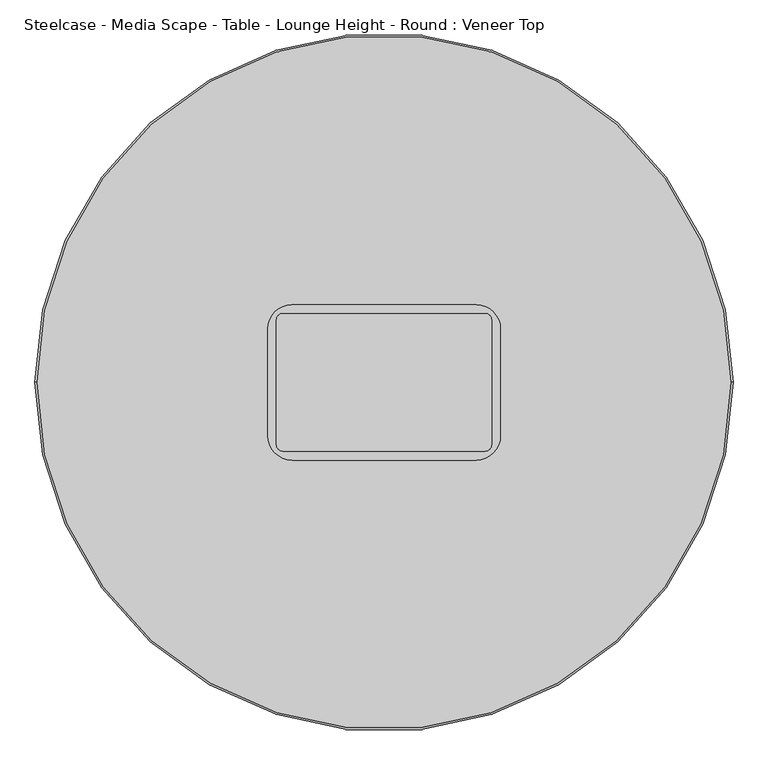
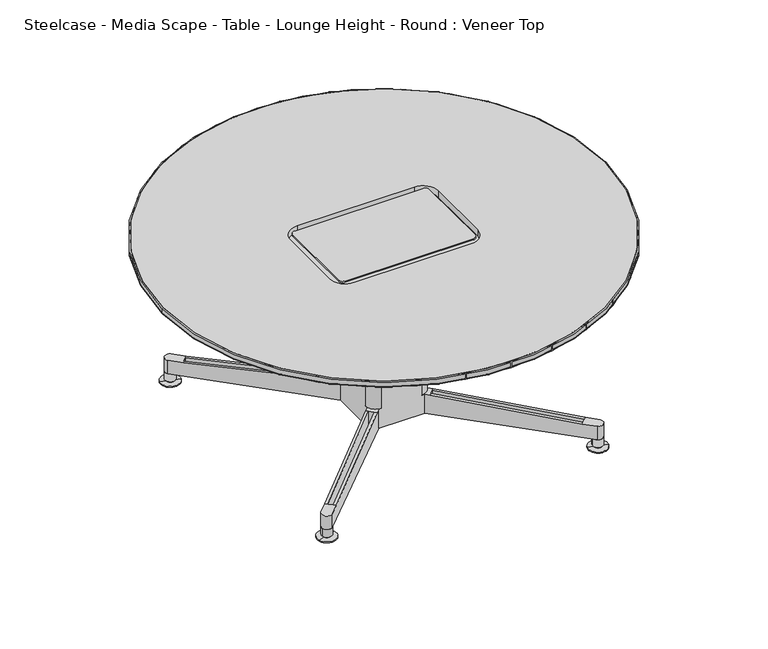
"""IFC4 building model written with IfcOpenShell, lengths in millimetres: furniture geometry, Steelcase - Media Scape - Table - Lounge Height - Round : Veneer Top."""

from ifc_helpers import new_model, si_unit, point, frame, frame_2d, origin, origin_with_axes, origin_2d, place, context, project, spatial, polyline, circle_curve, ellipse_curve, trimmed, segment, composite_curve, outline, extrude, source, transform, mapped, element, save
from ifc_brep_helpers import plane_surface, cylinder_surface, revolved_surface, spline_surface, advanced_brep


def steelcase_media_scape_table_lounge_height_round_veneer_top_e40d57ec(model_context):
    return source(origin(), model_context, "Body", "SolidModel", [
        advanced_brep(
        [(104.8668545, -82.1762242, 96.4980935), (403.4729739, -380.7823435, 78.1912503), (433.2236275, -410.5329971, 78.1912484), (433.2236275, -410.5329971, 34.5059), (93.9056692, -71.2150389, 34.5059), (93.9056692, -71.2150389, 96.4819), (397.8693429, -386.3859745, 78.1912503), (99.2632235, -87.7798552, 96.4980935), (99.2633324, -87.779964, 34.5059), (397.8693429, -386.3859745, 34.5059), (410.8500564, -433.0537332, 34.5059), (71.4620024, -93.6587057, 34.5059), (-70.954097, -93.6587057, 34.5059), (-410.342151, -433.0537332, 34.5059), (-432.7192089, -410.5295104, 34.5059), (-93.4047373, -71.2080654, 34.5059), (-93.4047373, 71.2080654, 34.5059), (-432.7192089, 410.5295104, 34.5059), (-410.342151, 433.0537332, 34.5059), (-70.954097, 93.6587057, 34.5059), (71.4620024, 93.6587057, 34.5059), (410.8500564, 433.0537332, 34.5059), (433.2271142, 410.5295104, 34.5059), (93.9126427, 71.2080654, 34.5059), (88.0268187, -99.01626, 34.5059), (386.6329381, -397.6223793, 34.5059), (-386.1250327, -397.6223793, 34.5059), (-87.5189134, -99.01626, 34.5059), (-98.7554223, -87.7799593, 34.5059), (-397.3614375, -386.3859745, 34.5059), (386.6329381, 397.6223793, 34.5059), (88.0268187, 99.01626, 34.5059), (99.2633324, 87.779964, 34.5059), (397.8693429, 386.3859745, 34.5059), (-87.5189134, 99.01626, 34.5059), (-386.1250327, 397.6223793, 34.5059), (-397.3615827, 386.3861198, 34.5059), (-98.7553181, 87.7798552, 34.5059), (381.026038, -403.2297148, 78.1912484), (410.8500564, -433.0537332, 78.1912484), (386.6330833, -397.6225246, 78.1912484), (82.419701, -104.6233777, 96.4980935), (71.4585157, -93.6621924, 96.4819), (93.9126427, 71.2080654, 96.4819), (104.8739731, 82.1693958, 96.4819), (99.2633324, 87.779964, 96.4819), (88.0268549, 99.0162962, 96.4819), (82.4231877, 104.619891, 96.4819), (71.4620024, 93.6587057, 96.4819), (62.1626427, 93.6586743, 96.4819), (93.9126427, 61.9086743, 96.4819), (-70.954097, 93.6587057, 96.4819), (-81.9152776, 104.6198863, 96.4819), (-87.5189449, 99.0162915, 96.4819), (-98.7554223, 87.7799593, 96.4819), (-104.3590896, 82.1763645, 96.4819), (-93.4047373, 71.2080654, 96.4819), (-93.4047373, 61.9086743, 96.4819), (-61.6547373, 93.6586743, 96.4819), (-93.4047373, -71.2080654, 96.4819), (-104.366063, -82.1693911, 96.4819), (-98.7554223, -87.7799593, 96.4819), (-87.5189449, -99.0162915, 96.4819), (-81.9152776, -104.6198863, 96.4819), (-70.954097, -93.6587057, 96.4819), (-61.6547373, -93.6587057, 96.4819), (-93.4047373, -61.9087057, 96.4819), (88.0268549, -99.0162962, 96.4819), (93.9126427, -61.9087057, 96.4819), (62.1626427, -93.6587057, 96.4819), (433.2306009, 410.5260237, 78.1912484), (403.4801651, 380.7755878, 78.1912484), (381.029307, 403.2260104, 78.1912503), (410.8535431, 433.0502464, 78.1912484), (-61.6547373, 93.6587057, 352.68662), (62.1626427, 93.6587057, 352.68662), (-410.3456377, 433.0502464, 78.1912484), (-380.5216194, 403.2262281, 78.1912484), (-402.972042, 380.7753701, 78.1912503), (-432.7226956, 410.5260237, 78.1912484), (-93.4047373, -61.9087057, 352.68662), (-93.4047373, 61.9086743, 352.68662), (-432.7226956, -410.5260237, 78.1912484), (-402.9722597, -380.7755878, 78.1912484), (-380.5214017, -403.2260104, 78.1912503), (-410.3456377, -433.0502464, 78.1912484), (62.1626427, -93.6587057, 352.68662), (-61.6547373, -93.6587057, 352.68662), (93.9126427, 61.9086743, 352.68662), (93.9126427, -61.9087057, 352.68662), (-386.1250327, -397.6223793, 78.1912503), (-397.3615827, -386.3861198, 78.1912484), (386.6329381, 397.6223793, 78.1912503), (397.8694881, 386.3861198, 78.1912484), (-386.1250327, 397.6223793, 78.1912503), (-397.3614695, 386.3860065, 78.1912484)],
        [
            (0, 1),
            (1, 2),
            (2, 3),
            (3, 4),
            (4, 5),
            (5, 0),
            (6, 7),
            (7, 8),
            (8, 9),
            (9, 6),
            (3, 10, circle_curve(frame((420.3453732, -420.1094725, 34.5059), z_axis=(0.0, 0.0, -1.0), x_axis=(1.0, 0.0, 0.0)), 16.053502)),
            (10, 11),
            (11, 12),
            (12, 13),
            (13, 14, circle_curve(frame((-419.8374678, -420.1094725, 34.5059), z_axis=(0.0, 0.0, -1.0), x_axis=(-1.0, 0.0, 0.0)), 16.053502)),
            (14, 15),
            (15, 16),
            (16, 17),
            (17, 18, circle_curve(frame((-419.8374678, 420.1094725, 34.5059), z_axis=(0.0, 0.0, -1.0), x_axis=(-1.0, 0.0, 0.0)), 16.053502)),
            (18, 19),
            (19, 20),
            (20, 21),
            (21, 22, circle_curve(frame((420.3453732, 420.1094725, 34.5059), z_axis=(0.0, 0.0, -1.0), x_axis=(1.0, 0.0, 0.0)), 16.053502)),
            (22, 23),
            (23, 4),
            (8, 24),
            (24, 25),
            (25, 9),
            (26, 27),
            (27, 28),
            (28, 29),
            (29, 26),
            (30, 31),
            (31, 32),
            (32, 33),
            (33, 30),
            (34, 35),
            (35, 36),
            (36, 37),
            (37, 34),
            (0, 7),
            (6, 1),
            (38, 39),
            (39, 2, circle_curve(frame((420.3453732, -420.1094725, 78.1912484), z_axis=(0.0, 0.0, 1.0), x_axis=(1.0, 0.0, 0.0)), 16.053502)),
            (6, 40),
            (40, 38),
            (38, 41),
            (41, 42),
            (42, 11),
            (10, 39),
            (25, 40),
            (43, 44),
            (44, 45),
            (45, 46),
            (46, 47),
            (47, 48),
            (48, 49),
            (49, 50, circle_curve(frame((62.1626427, 61.9086743, 96.4819), z_axis=(0.0, 0.0, -1.0), x_axis=(1.0, 0.0, 0.0)), 31.75)),
            (50, 43),
            (51, 52),
            (52, 53),
            (53, 54),
            (54, 55),
            (55, 56),
            (56, 57),
            (57, 58, circle_curve(frame((-61.6547373, 61.9086743, 96.4819), z_axis=(0.0, 0.0, -1.0), x_axis=(1.0, 0.0, 0.0)), 31.75)),
            (58, 51),
            (59, 60),
            (60, 61),
            (61, 62),
            (62, 63),
            (63, 64),
            (64, 65),
            (65, 66, circle_curve(frame((-61.6547373, -61.9087057, 96.4819), z_axis=(0.0, 0.0, -1.0), x_axis=(1.0, 0.0, 0.0)), 31.75)),
            (66, 59),
            (41, 67),
            (67, 7),
            (5, 68),
            (68, 69, circle_curve(frame((62.1626427, -61.9087057, 96.4819), z_axis=(0.0, 0.0, -1.0), x_axis=(1.0, 0.0, 0.0)), 31.75)),
            (69, 42),
            (43, 23),
            (22, 70),
            (70, 71),
            (71, 44),
            (31, 46),
            (45, 32),
            (47, 72),
            (72, 73),
            (73, 21),
            (20, 48),
            (19, 51),
            (58, 74),
            (74, 75),
            (75, 49),
            (18, 76),
            (76, 77),
            (77, 52),
            (53, 34),
            (37, 54),
            (55, 78),
            (78, 79),
            (79, 17),
            (16, 56),
            (15, 59),
            (66, 80),
            (80, 81),
            (81, 57),
            (14, 82),
            (82, 83),
            (83, 60),
            (27, 62),
            (61, 28),
            (63, 84),
            (84, 85),
            (85, 13),
            (12, 64),
            (69, 86),
            (86, 87),
            (87, 65),
            (67, 24),
            (50, 88),
            (88, 89),
            (89, 68),
            (67, 40),
            (90, 62),
            (26, 90),
            (90, 84),
            (82, 85, circle_curve(frame((-419.8374678, -420.1094725, 78.1912484), z_axis=(0.0, 0.0, 1.0), x_axis=(-1.0, 0.0, 0.0)), 16.053502)),
            (90, 91),
            (91, 83),
            (29, 91),
            (61, 91),
            (92, 46),
            (30, 92),
            (92, 72),
            (70, 73, circle_curve(frame((420.3453732, 420.1094725, 78.1912484), z_axis=(0.0, 0.0, 1.0), x_axis=(1.0, 0.0, 0.0)), 16.053502)),
            (92, 93),
            (93, 71),
            (33, 93),
            (45, 93),
            (53, 94),
            (94, 35),
            (77, 94),
            (76, 79, circle_curve(frame((-419.8374678, 420.1094725, 78.1912484), z_axis=(0.0, 0.0, 1.0), x_axis=(-1.0, 0.0, 0.0)), 16.053502)),
            (78, 95),
            (95, 94),
            (95, 36),
            (95, 54),
            (74, 81, circle_curve(frame((-61.6547373, 61.9086743, 352.68662), z_axis=(0.0, 0.0, 1.0), x_axis=(1.0, 0.0, 0.0)), 31.75)),
            (80, 87, circle_curve(frame((-61.6547373, -61.9087057, 352.68662), z_axis=(0.0, 0.0, 1.0), x_axis=(1.0, 0.0, 0.0)), 31.75)),
            (86, 89, circle_curve(frame((62.1626427, -61.9087057, 352.68662), z_axis=(0.0, 0.0, 1.0), x_axis=(1.0, 0.0, 0.0)), 31.75)),
            (88, 75, circle_curve(frame((62.1626427, 61.9086743, 352.68662), z_axis=(0.0, 0.0, 1.0), x_axis=(1.0, 0.0, 0.0)), 31.75)),
        ],
        [
            plane_surface(frame((630.811656, -608.1210257, 34.5059), z_axis=(0.7071067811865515, 0.7071067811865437, 0.0), x_axis=(-0.7071067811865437, 0.7071067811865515, 0.0))),
            plane_surface(frame((625.208025, -613.7246567, 34.5059), z_axis=(-0.7071067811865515, -0.7071067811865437, 0.0), x_axis=(0.7071067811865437, -0.7071067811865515, 0.0))),
            plane_surface(frame((403.4729739, -380.7823435, 34.5059), z_axis=(0.0, 0.0, -1.0000000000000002), x_axis=(-0.7071067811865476, -0.7071067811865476, 0.0))),
            plane_surface(frame((104.8668545, -82.1762242, 96.4980935), z_axis=(0.030625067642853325, -0.030625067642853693, 0.9990616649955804), x_axis=(-0.7071067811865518, -0.7071067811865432, 0.0))),
            plane_surface(frame((381.026038, -403.2297148, 78.1912484), z_axis=(0.0, 0.0, 1.0), x_axis=(0.7071067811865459, -0.7071067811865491, 0.0))),
            plane_surface(frame((381.026038, -403.2297148, 78.1912484), z_axis=(-0.7071067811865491, -0.7071067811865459, 0.0), x_axis=(0.0, 0.0, -1.0))),
            cylinder_surface(frame((420.3453732, -420.1094725, 34.5059), z_axis=(0.0, 0.0, 1.0), x_axis=(1.0, 0.0, 0.0)), 16.053502),
            plane_surface(frame((403.4766783, -380.7790745, 78.1912484), z_axis=(-0.7071067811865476, 0.7071067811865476, 0.0), x_axis=(0.0, 0.0, -1.0))),
            plane_surface(frame((431.5702728, 408.8656956, 96.4819), z_axis=(0.0, 0.0, 1.0), x_axis=(0.7071067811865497, 0.7071067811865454, 0.0))),
            plane_surface(frame((93.9126427, 71.2080654, 96.4819), z_axis=(0.7071067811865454, -0.7071067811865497, 0.0), x_axis=(0.0, 0.0, -1.0))),
            plane_surface(frame((104.8739731, 82.1693958, 96.4819), z_axis=(0.7071022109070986, 0.7071113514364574, 0.0), x_axis=(0.0, 0.0, -1.0))),
            plane_surface(frame((82.4231877, 104.619891, 96.4819), z_axis=(-0.7071067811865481, 0.707106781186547, 0.0), x_axis=(0.0, 0.0, -1.0))),
            plane_surface(frame((71.4620024, 93.6587057, 96.4819), z_axis=(0.0, 1.0, 0.0), x_axis=(0.0, 0.0, -1.0))),
            plane_surface(frame((-70.954097, 93.6587057, 96.4819), z_axis=(0.7071067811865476, 0.7071067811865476, 0.0), x_axis=(0.0, 0.0, -1.0))),
            plane_surface(frame((-81.9152776, 104.6198863, 96.4819), z_axis=(-0.7071022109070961, 0.7071113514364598, 0.0), x_axis=(0.0, 0.0, -1.0))),
            plane_surface(frame((-104.366063, 82.1693911, 96.4819), z_axis=(-0.7071067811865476, -0.7071067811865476, 0.0), x_axis=(0.0, 0.0, -1.0))),
            plane_surface(frame((-93.4047373, 71.2080654, 96.4819), z_axis=(-1.0, 0.0, 0.0), x_axis=(0.0, 0.0, -1.0))),
            plane_surface(frame((-93.4047373, -71.2080654, 96.4819), z_axis=(-0.7071067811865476, 0.7071067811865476, 0.0), x_axis=(0.0, 0.0, -1.0))),
            plane_surface(frame((-104.366063, -82.1693911, 96.4819), z_axis=(-0.7071022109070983, -0.7071113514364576, 0.0), x_axis=(0.0, 0.0, -1.0))),
            plane_surface(frame((-81.9152776, -104.6198863, 96.4819), z_axis=(0.7071067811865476, -0.7071067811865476, 0.0), x_axis=(0.0, 0.0, -1.0))),
            plane_surface(frame((-70.954097, -93.6587057, 96.4819), z_axis=(0.0, -1.0, 0.0), x_axis=(0.0, 0.0, -1.0))),
            plane_surface(frame((82.4231877, -104.619891, 96.4819), z_axis=(0.7071022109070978, -0.7071113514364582, 0.0), x_axis=(0.0, 0.0, -1.0))),
            plane_surface(frame((93.9126427, -71.2080654, 96.4819), z_axis=(1.0, 0.0, 0.0), x_axis=(0.0, 0.0, -1.0))),
            plane_surface(frame((386.6329381, -397.6223793, 75.7808986), z_axis=(0.7071067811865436, 0.7071067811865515, 0.0), x_axis=(0.0, 0.0, -1.0))),
            plane_surface(frame((381.029307, -403.2260104, 78.1912503), z_axis=(0.030625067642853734, -0.030625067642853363, 0.9990616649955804), x_axis=(0.7071067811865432, 0.7071067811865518, 0.0))),
            plane_surface(frame((-613.4637148, -624.9610615, 34.5059), z_axis=(-0.7071067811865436, 0.7071067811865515, 0.0), x_axis=(-0.7071067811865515, -0.7071067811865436, 0.0))),
            plane_surface(frame((-81.9152823, -104.619891, 96.4980935), z_axis=(-0.030625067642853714, -0.030625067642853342, 0.9990616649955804), x_axis=(-0.7071067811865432, 0.7071067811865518, 0.0))),
            plane_surface(frame((-402.968773, -380.7790745, 78.1912484), z_axis=(0.0, 0.0, 1.0000000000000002), x_axis=(-0.7071067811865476, 0.7071067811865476, 0.0))),
            plane_surface(frame((-380.5181327, -403.2297148, 78.1912484), z_axis=(0.7071067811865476, 0.7071067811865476, 0.0), x_axis=(0.0, 0.0, -1.0))),
            cylinder_surface(frame((-419.8374678, -420.1094725, 34.5059), z_axis=(0.0, 0.0, 1.0), x_axis=(-1.0, 0.0, 0.0)), 16.053502),
            plane_surface(frame((-397.3614375, -386.3859745, 75.7808986), z_axis=(0.7071067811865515, -0.7071067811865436, 0.0), x_axis=(0.0, 0.0, -1.0))),
            plane_surface(frame((-402.9650685, -380.7823435, 78.1912503), z_axis=(-0.030625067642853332, -0.030625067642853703, 0.9990616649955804), x_axis=(0.7071067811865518, -0.7071067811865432, 0.0))),
            plane_surface(frame((613.9716202, 624.9610615, 34.5059), z_axis=(0.7071067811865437, -0.7071067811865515, 0.0), x_axis=(0.7071067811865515, 0.7071067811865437, 0.0))),
            plane_surface(frame((82.4231877, 104.619891, 96.4980935), z_axis=(0.030625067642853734, 0.030625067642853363, 0.9990616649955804), x_axis=(0.7071067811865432, -0.7071067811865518, 0.0))),
            plane_surface(frame((403.4766783, 380.7790745, 78.1912484), z_axis=(0.0, 0.0, 1.0000000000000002), x_axis=(0.7071067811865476, -0.7071067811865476, 0.0))),
            plane_surface(frame((381.026038, 403.2297148, 78.1912484), z_axis=(-0.7071067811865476, -0.7071067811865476, 0.0), x_axis=(0.0, 0.0, -1.0))),
            cylinder_surface(frame((420.3453732, 420.1094725, 34.5059), z_axis=(0.0, 0.0, 1.0), x_axis=(1.0, 0.0, 0.0)), 16.053502),
            plane_surface(frame((397.8693429, 386.3859745, 75.7808986), z_axis=(-0.7071067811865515, 0.7071067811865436, 0.0), x_axis=(0.0, 0.0, -1.0))),
            plane_surface(frame((403.4729739, 380.7823435, 78.1912503), z_axis=(0.030625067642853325, 0.030625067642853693, 0.9990616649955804), x_axis=(-0.7071067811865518, 0.7071067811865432, 0.0))),
            plane_surface(frame((-386.1250327, 397.6223793, 75.7808986), z_axis=(-0.7071067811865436, -0.7071067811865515, 0.0), x_axis=(0.0, 0.0, -1.0))),
            plane_surface(frame((-380.5214017, 403.2260104, 78.1912503), z_axis=(-0.030625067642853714, 0.030625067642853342, 0.9990616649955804), x_axis=(-0.7071067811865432, -0.7071067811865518, 0.0))),
            plane_surface(frame((-380.5181327, 403.2297148, 78.1912484), z_axis=(0.0, 0.0, 1.0), x_axis=(-0.7071067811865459, 0.7071067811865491, 0.0))),
            cylinder_surface(frame((-419.8374678, 420.1094725, 34.5059), z_axis=(0.0, 0.0, 1.0), x_axis=(-1.0, 0.0, 0.0)), 16.053502),
            plane_surface(frame((-402.968773, 380.7790745, 78.1912484), z_axis=(0.7071067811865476, -0.7071067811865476, 0.0), x_axis=(0.0, 0.0, -1.0))),
            plane_surface(frame((-624.7001196, 613.7246567, 34.5059), z_axis=(0.7071067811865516, 0.7071067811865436, 0.0), x_axis=(-0.7071067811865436, 0.7071067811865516, 0.0))),
            plane_surface(frame((-104.3589492, 82.1762242, 96.4980935), z_axis=(-0.030625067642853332, 0.030625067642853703, 0.9990616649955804), x_axis=(0.7071067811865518, 0.7071067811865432, 0.0))),
            plane_surface(frame((-29.9047373, 61.9086743, 352.68662), z_axis=(0.0, 0.0, 1.0), x_axis=(0.0, 1.0, 0.0))),
            cylinder_surface(frame((-61.6547373, 61.9086743, 96.4819), z_axis=(0.0, 0.0, 1.0), x_axis=(1.0, 0.0, 0.0)), 31.75),
            cylinder_surface(frame((-61.6547373, -61.9087057, 96.4819), z_axis=(0.0, 0.0, 1.0), x_axis=(1.0, 0.0, 0.0)), 31.75),
            cylinder_surface(frame((62.1626427, -61.9087057, 96.4819), z_axis=(0.0, 0.0, 1.0), x_axis=(1.0, 0.0, 0.0)), 31.75),
            cylinder_surface(frame((62.1626427, 61.9086743, 96.4819), z_axis=(0.0, 0.0, 1.0), x_axis=(1.0, 0.0, 0.0)), 31.75),
        ],
        [
            (0, [[1, 2, 3, 4, 5, 6]]),
            (1, [[7, 8, 9, 10]]),
            (2, [[11, 12, 13, 14, 15, 16, 17, 18, 19, 20, 21, 22, 23, 24, 25, -4], [-9, 26, 27, 28], [29, 30, 31, 32], [33, 34, 35, 36], [37, 38, 39, 40]]),
            (3, [[-1, 41, -7, 42]]),
            (4, [[43, 44, -2, -42, 45, 46]]),
            (5, [[-43, 47, 48, 49, -12, 50]]),
            (6, [[-44, -50, -11, -3]]),
            (7, [[-10, -28, 51, -45]]),
            (8, [[52, 53, 54, 55, 56, 57, 58, 59]]),
            (8, [[60, 61, 62, 63, 64, 65, 66, 67]]),
            (8, [[68, 69, 70, 71, 72, 73, 74, 75]]),
            (8, [[-48, 76, 77, -41, -6, 78, 79, 80]]),
            (9, [[-52, 81, -24, 82, 83, 84]]),
            (10, [[85, -54, 86, -34]]),
            (11, [[-56, 87, 88, 89, -22, 90]]),
            (12, [[-21, 91, -67, 92, 93, 94, -57, -90]]),
            (13, [[-60, -91, -20, 95, 96, 97]]),
            (14, [[98, -40, 99, -62]]),
            (15, [[-64, 100, 101, 102, -18, 103]]),
            (16, [[-17, 104, -75, 105, 106, 107, -65, -103]]),
            (17, [[-68, -104, -16, 108, 109, 110]]),
            (18, [[111, -70, 112, -30]]),
            (19, [[-72, 113, 114, 115, -14, 116]]),
            (20, [[-13, -49, -80, 117, 118, 119, -73, -116]]),
            (21, [[-8, -77, 120, -26]]),
            (22, [[-25, -81, -59, 121, 122, 123, -78, -5]]),
            (23, [[-27, -120, 124, -51]]),
            (24, [[-47, -46, -124, -76]]),
            (25, [[125, -111, -29, 126]]),
            (26, [[-113, -71, -125, 127]]),
            (27, [[-109, 128, -114, -127, 129, 130]]),
            (28, [[-126, -32, 131, -129]]),
            (29, [[-128, -108, -15, -115]]),
            (30, [[-31, -112, 132, -131]]),
            (31, [[-110, -130, -132, -69]]),
            (32, [[133, -85, -33, 134]]),
            (33, [[-87, -55, -133, 135]]),
            (34, [[-83, 136, -88, -135, 137, 138]]),
            (35, [[-134, -36, 139, -137]]),
            (36, [[-136, -82, -23, -89]]),
            (37, [[-35, -86, 140, -139]]),
            (38, [[-84, -138, -140, -53]]),
            (39, [[-37, -98, 141, 142]]),
            (40, [[-97, 143, -141, -61]]),
            (41, [[-96, 144, -101, 145, 146, -143]]),
            (42, [[-144, -95, -19, -102]]),
            (43, [[-142, -146, 147, -38]]),
            (44, [[148, -99, -39, -147]]),
            (45, [[-100, -63, -148, -145]]),
            (46, [[149, -106, 150, -118, 151, -122, 152, -93]]),
            (47, [[-149, -92, -66, -107]]),
            (48, [[-150, -105, -74, -119]]),
            (49, [[-151, -117, -79, -123]]),
            (50, [[-152, -121, -58, -94]]),
        ],
    ),
        advanced_brep(
        [(-419.8378225, 420.251735, 0.0), (-448.2994215, 428.7370221, 0.0), (-391.3762234, 411.7664479, 0.0), (-404.5499346, 415.6939406, 34.5059), (-435.1257103, 424.8095294, 34.5059), (-419.8378225, 420.251735, 34.5059), (-404.5499346, 415.6939406, 9.1059), (-435.1257103, 424.8095294, 9.1059), (-409.2518455, 417.0957263, 9.1059), (-430.4237995, 423.4077437, 9.1059), (-409.2518455, 417.0957263, 3.2766), (-430.4237995, 423.4077437, 3.2766), (-391.3762234, 411.7664479, 3.2766), (-448.2994215, 428.7370221, 3.2766)],
        [
            (0, 1),
            (1, 2, circle_curve(frame((-419.8378225, 420.251735, 0.0), z_axis=(0.0, 0.0, -1.0), x_axis=(-0.9583178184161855, 0.28570432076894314, 0.0)), 29.6995407)),
            (2, 0),
            (2, 1, circle_curve(frame((-419.8378225, 420.251735, 0.0), z_axis=(0.0, 0.0, -1.0), x_axis=(-0.9583178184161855, 0.28570432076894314, 0.0)), 29.6995407)),
            (3, 4, circle_curve(frame((-419.8378225, 420.251735, 34.5059), z_axis=(0.0, 0.0, 1.0), x_axis=(-0.9583178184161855, 0.28570432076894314, 0.0)), 15.9528369)),
            (4, 5),
            (5, 3),
            (4, 3, circle_curve(frame((-419.8378225, 420.251735, 34.5059), z_axis=(0.0, 0.0, 1.0), x_axis=(-0.9583178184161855, 0.28570432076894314, 0.0)), 15.9528369)),
            (6, 7, circle_curve(frame((-419.8378225, 420.251735, 9.1059), z_axis=(0.0, 0.0, 1.0), x_axis=(-0.9583178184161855, 0.28570432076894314, 0.0)), 15.9528369)),
            (7, 4),
            (3, 6),
            (7, 6, circle_curve(frame((-419.8378225, 420.251735, 9.1059), z_axis=(0.0, 0.0, 1.0), x_axis=(-0.9583178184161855, 0.28570432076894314, 0.0)), 15.9528369)),
            (8, 9, circle_curve(frame((-419.8378225, 420.251735, 9.1059), z_axis=(0.0, 0.0, 1.0), x_axis=(-0.9583178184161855, 0.28570432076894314, 0.0)), 11.0464157)),
            (9, 7),
            (6, 8),
            (9, 8, circle_curve(frame((-419.8378225, 420.251735, 9.1059), z_axis=(0.0, 0.0, 1.0), x_axis=(-0.9583178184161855, 0.28570432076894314, 0.0)), 11.0464157)),
            (10, 11, circle_curve(frame((-419.8378225, 420.251735, 3.2766), z_axis=(0.0, 0.0, 1.0), x_axis=(-0.9583178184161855, 0.28570432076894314, 0.0)), 11.0464157)),
            (11, 9),
            (8, 10),
            (11, 10, circle_curve(frame((-419.8378225, 420.251735, 3.2766), z_axis=(0.0, 0.0, 1.0), x_axis=(-0.9583178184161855, 0.28570432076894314, 0.0)), 11.0464157)),
            (12, 13, circle_curve(frame((-419.8378225, 420.251735, 3.2766), z_axis=(0.0, 0.0, 1.0), x_axis=(-0.9583178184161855, 0.28570432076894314, 0.0)), 29.6995407)),
            (13, 11),
            (10, 12),
            (13, 12, circle_curve(frame((-419.8378225, 420.251735, 3.2766), z_axis=(0.0, 0.0, 1.0), x_axis=(-0.9583178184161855, 0.28570432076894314, 0.0)), 29.6995407)),
            (1, 13),
            (12, 2),
        ],
        [
            plane_surface(frame((-419.8378225, 420.251735, 0.0), z_axis=(0.0, 0.0, -1.0000000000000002), x_axis=(-0.9583178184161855, 0.28570432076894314, 0.0))),
            plane_surface(frame((-419.8378225, 420.251735, 34.5059), z_axis=(0.0, 0.0, 1.0000000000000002), x_axis=(-0.9583178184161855, 0.28570432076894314, 0.0))),
            cylinder_surface(frame((-419.8378225, 420.251735, 9.1059), z_axis=(0.0, 0.0, -1.0), x_axis=(-0.9583178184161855, 0.28570432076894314, 0.0)), 15.9528369),
            plane_surface(frame((-419.8378225, 420.251735, 9.1059), z_axis=(0.0, 0.0, -1.0000000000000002), x_axis=(-0.9583178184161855, 0.28570432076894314, 0.0))),
            cylinder_surface(frame((-419.8378225, 420.251735, 9.1059), z_axis=(0.0, 0.0, -1.0), x_axis=(-0.9583178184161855, 0.28570432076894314, 0.0)), 11.0464157),
            plane_surface(frame((-419.8378225, 420.251735, 3.2766), z_axis=(0.0, 0.0, 1.0000000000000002), x_axis=(-0.9583178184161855, 0.28570432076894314, 0.0))),
            cylinder_surface(frame((-419.8378225, 420.251735, 9.1059), z_axis=(0.0, 0.0, -1.0), x_axis=(-0.9583178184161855, 0.28570432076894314, 0.0)), 29.6995407),
        ],
        [
            (0, [[1, 2, 3]]),
            (0, [[-3, 4, -1]]),
            (1, [[5, 6, 7]]),
            (1, [[8, -7, -6]]),
            (2, [[9, 10, -5, 11]]),
            (2, [[12, -11, -8, -10]]),
            (3, [[13, 14, -9, 15]]),
            (3, [[16, -15, -12, -14]]),
            (4, [[17, 18, -13, 19]]),
            (4, [[20, -19, -16, -18]]),
            (5, [[21, 22, -17, 23]]),
            (5, [[24, -23, -20, -22]]),
            (6, [[-2, 25, -21, 26]]),
            (6, [[-4, -26, -24, -25]]),
        ],
    ),
        advanced_brep(
        [(391.8841288, 411.7664479, 3.2766), (448.8073269, 428.7370221, 3.2766), (448.8073269, 428.7370221, 0.0), (391.8841288, 411.7664479, 0.0), (409.7597508, 417.0957263, 3.2766), (430.9317048, 423.4077437, 3.2766), (409.7597508, 417.0957263, 9.1059), (430.9317048, 423.4077437, 9.1059), (405.05784, 415.6939406, 9.1059), (435.6336157, 424.8095294, 9.1059), (405.05784, 415.6939406, 34.5059), (435.6336157, 424.8095294, 34.5059), (420.3457278, 420.251735, 34.5059), (420.3457278, 420.251735, 0.0)],
        [
            (0, 1, circle_curve(frame((420.3457278, 420.251735, 3.2766), z_axis=(0.0, 0.0, -1.0), x_axis=(0.9583178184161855, 0.28570432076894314, 0.0)), 29.6995407)),
            (1, 2),
            (2, 3, circle_curve(frame((420.3457278, 420.251735, 0.0), z_axis=(0.0, 0.0, 1.0), x_axis=(0.9583178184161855, 0.28570432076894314, 0.0)), 29.6995407)),
            (3, 0),
            (1, 0, circle_curve(frame((420.3457278, 420.251735, 3.2766), z_axis=(0.0, 0.0, -1.0), x_axis=(0.9583178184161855, 0.28570432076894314, 0.0)), 29.6995407)),
            (3, 2, circle_curve(frame((420.3457278, 420.251735, 0.0), z_axis=(0.0, 0.0, 1.0), x_axis=(0.9583178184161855, 0.28570432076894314, 0.0)), 29.6995407)),
            (4, 5, circle_curve(frame((420.3457278, 420.251735, 3.2766), z_axis=(0.0, 0.0, -1.0), x_axis=(0.9583178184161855, 0.28570432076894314, 0.0)), 11.0464157)),
            (5, 1),
            (0, 4),
            (5, 4, circle_curve(frame((420.3457278, 420.251735, 3.2766), z_axis=(0.0, 0.0, -1.0), x_axis=(0.9583178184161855, 0.28570432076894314, 0.0)), 11.0464157)),
            (6, 7, circle_curve(frame((420.3457278, 420.251735, 9.1059), z_axis=(0.0, 0.0, -1.0), x_axis=(0.9583178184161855, 0.28570432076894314, 0.0)), 11.0464157)),
            (7, 5),
            (4, 6),
            (7, 6, circle_curve(frame((420.3457278, 420.251735, 9.1059), z_axis=(0.0, 0.0, -1.0), x_axis=(0.9583178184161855, 0.28570432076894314, 0.0)), 11.0464157)),
            (8, 9, circle_curve(frame((420.3457278, 420.251735, 9.1059), z_axis=(0.0, 0.0, -1.0), x_axis=(0.9583178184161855, 0.28570432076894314, 0.0)), 15.9528369)),
            (9, 7),
            (6, 8),
            (9, 8, circle_curve(frame((420.3457278, 420.251735, 9.1059), z_axis=(0.0, 0.0, -1.0), x_axis=(0.9583178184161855, 0.28570432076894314, 0.0)), 15.9528369)),
            (10, 11, circle_curve(frame((420.3457278, 420.251735, 34.5059), z_axis=(0.0, 0.0, -1.0), x_axis=(0.9583178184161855, 0.28570432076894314, 0.0)), 15.9528369)),
            (11, 9),
            (8, 10),
            (11, 10, circle_curve(frame((420.3457278, 420.251735, 34.5059), z_axis=(0.0, 0.0, -1.0), x_axis=(0.9583178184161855, 0.28570432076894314, 0.0)), 15.9528369)),
            (12, 11),
            (10, 12),
            (2, 13),
            (13, 3),
        ],
        [
            cylinder_surface(frame((420.3457278, 420.251735, 9.1059), z_axis=(0.0, 0.0, 1.0), x_axis=(0.9583178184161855, 0.28570432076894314, 0.0)), 29.6995407),
            plane_surface(frame((420.3457278, 420.251735, 3.2766), z_axis=(0.0, 0.0, 1.0000000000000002), x_axis=(0.9583178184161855, 0.28570432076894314, 0.0))),
            cylinder_surface(frame((420.3457278, 420.251735, 9.1059), z_axis=(0.0, 0.0, 1.0), x_axis=(0.9583178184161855, 0.28570432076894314, 0.0)), 11.0464157),
            plane_surface(frame((420.3457278, 420.251735, 9.1059), z_axis=(0.0, 0.0, -1.0000000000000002), x_axis=(0.9583178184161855, 0.28570432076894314, 0.0))),
            cylinder_surface(frame((420.3457278, 420.251735, 9.1059), z_axis=(0.0, 0.0, 1.0), x_axis=(0.9583178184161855, 0.28570432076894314, 0.0)), 15.9528369),
            plane_surface(frame((420.3457278, 420.251735, 34.5059), z_axis=(0.0, 0.0, 1.0000000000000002), x_axis=(0.9583178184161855, 0.28570432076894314, 0.0))),
            plane_surface(frame((420.3457278, 420.251735, 0.0), z_axis=(0.0, 0.0, -1.0000000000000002), x_axis=(0.9583178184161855, 0.28570432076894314, 0.0))),
        ],
        [
            (0, [[1, 2, 3, 4]]),
            (0, [[5, -4, 6, -2]]),
            (1, [[7, 8, -1, 9]]),
            (1, [[10, -9, -5, -8]]),
            (2, [[11, 12, -7, 13]]),
            (2, [[14, -13, -10, -12]]),
            (3, [[15, 16, -11, 17]]),
            (3, [[18, -17, -14, -16]]),
            (4, [[19, 20, -15, 21]]),
            (4, [[22, -21, -18, -20]]),
            (5, [[23, -19, 24]]),
            (5, [[-24, -22, -23]]),
            (6, [[-3, 25, 26]]),
            (6, [[-6, -26, -25]]),
        ],
    ),
        advanced_brep(
        [(687.0537612, 0.0, 569.9023504), (-687.0537612, 0.0, 569.9023504), (-683.878737, 0.0, 566.7273262), (683.878737, 0.0, 566.7273262), (687.0537612, 0.0, 583.6183158), (-687.0537612, 0.0, 583.6183158), (683.878737, 0.0, 586.79334), (-683.878737, 0.0, 586.79334)],
        [
            (0, 1, circle_curve(frame((0.0, 0.0, 569.9023504), z_axis=(0.0, 0.0, -1.0), x_axis=(-1.0, 0.0, 0.0)), 687.0537612)),
            (1, 2, circle_curve(frame((-683.878737, 0.0, 569.9023504), z_axis=(0.0, -1.0, 0.0), x_axis=(1.0, 0.0, 0.0)), 3.1750242)),
            (2, 3, circle_curve(frame((0.0, 0.0, 566.7273262), z_axis=(0.0, 0.0, 1.0), x_axis=(-1.0, 0.0, 0.0)), 683.878737)),
            (3, 0, circle_curve(frame((683.878737, 0.0, 569.9023504), z_axis=(0.0, -1.0, 0.0), x_axis=(-1.0, 0.0, 0.0)), 3.1750242)),
            (4, 5, circle_curve(frame((0.0, 0.0, 583.6183158), z_axis=(0.0, 0.0, -1.0), x_axis=(-1.0, 0.0, 0.0)), 687.0537612)),
            (5, 1),
            (0, 4),
            (6, 7, circle_curve(frame((0.0, 0.0, 586.79334), z_axis=(0.0, 0.0, -1.0), x_axis=(-1.0, 0.0, 0.0)), 683.878737)),
            (7, 5, circle_curve(frame((-683.878737, 0.0, 583.6183158), z_axis=(0.0, -1.0, 0.0), x_axis=(1.0, 0.0, 0.0)), 3.1750242)),
            (4, 6, circle_curve(frame((683.878737, 0.0, 583.6183158), z_axis=(0.0, -1.0, 0.0), x_axis=(-1.0, 0.0, 0.0)), 3.1750242)),
            (2, 7),
            (6, 3),
            (1, 0, circle_curve(frame((0.0, 0.0, 569.9023504), z_axis=(0.0, 0.0, -1.0), x_axis=(1.0, 0.0, 0.0)), 687.0537612)),
            (3, 2, circle_curve(frame((0.0, 0.0, 566.7273262), z_axis=(0.0, 0.0, 1.0), x_axis=(1.0, 0.0, 0.0)), 683.878737)),
            (5, 4, circle_curve(frame((0.0, 0.0, 583.6183158), z_axis=(0.0, 0.0, -1.0), x_axis=(1.0, 0.0, 0.0)), 687.0537612)),
            (7, 6, circle_curve(frame((0.0, 0.0, 586.79334), z_axis=(0.0, 0.0, -1.0), x_axis=(1.0, 0.0, 0.0)), 683.878737)),
        ],
        [
            revolved_surface(trimmed(ellipse_curve(frame((-683.878737, 0.0, 569.9023504), z_axis=(0.0, 1.0, 0.0), x_axis=(1.0, 0.0, 0.0)), 3.1750242, 3.1750242), [point((-683.878737, 0.0, 566.7273262))], [point((-687.0537612, 0.0, 569.9023504))], True, "CARTESIAN"), (0.0, 0.0, 0.0), (0.0, 0.0, 1.0)),
            cylinder_surface(frame((0.0, 0.0, 0.0), z_axis=(0.0, 0.0, 1.0), x_axis=(-1.0, 0.0, 0.0)), 687.0537612),
            revolved_surface(trimmed(ellipse_curve(frame((-683.878737, 0.0, 583.6183158), z_axis=(0.0, 1.0, 0.0), x_axis=(1.0, 0.0, 0.0)), 3.1750242, 3.1750242), [point((-687.0537612, 0.0, 583.6183158))], [point((-683.878737, 0.0, 586.79334))], True, "CARTESIAN"), (0.0, 0.0, 0.0), (0.0, 0.0, 1.0)),
            revolved_surface(polyline([(-683.878737, 0.0, 586.79334), (-683.878737, 0.0, 566.7273262)]), (0.0, 0.0, 0.0), (0.0, 0.0, 1.0)),
            revolved_surface(trimmed(ellipse_curve(frame((683.878737, 0.0, 569.9023504), z_axis=(0.0, -1.0, 0.0), x_axis=(-1.0, 0.0, 0.0)), 3.1750242, 3.1750242), [point((683.878737, 0.0, 566.7273262))], [point((687.0537612, 0.0, 569.9023504))], True, "CARTESIAN"), (0.0, 0.0, 0.0), (0.0, 0.0, 1.0)),
            cylinder_surface(origin_with_axes(), 687.0537612),
            revolved_surface(trimmed(ellipse_curve(frame((683.878737, 0.0, 583.6183158), z_axis=(0.0, -1.0, 0.0), x_axis=(-1.0, 0.0, 0.0)), 3.1750242, 3.1750242), [point((687.0537612, 0.0, 583.6183158))], [point((683.878737, 0.0, 586.79334))], True, "CARTESIAN"), (0.0, 0.0, 0.0), (0.0, 0.0, 1.0)),
            revolved_surface(polyline([(683.878737, 0.0, 586.79334), (683.878737, 0.0, 566.7273262)]), (0.0, 0.0, 0.0), (0.0, 0.0, 1.0)),
        ],
        [
            (0, [[1, 2, 3, 4]]),
            (1, [[5, 6, -1, 7]]),
            (2, [[8, 9, -5, 10]]),
            (3, [[-3, 11, -8, 12]]),
            (4, [[13, -4, 14, -2]]),
            (5, [[15, -7, -13, -6]]),
            (6, [[16, -10, -15, -9]]),
            (7, [[-14, -12, -16, -11]]),
        ],
    ),
        extrude(outline(composite_curve([segment(trimmed(circle_curve(origin_2d(), 683.878737), [point((-683.878737, 0.0))], [point((683.878737, 0.0))], False, "CARTESIAN"), True, "CONTINUOUS"), segment(trimmed(circle_curve(origin_2d(), 683.878737), [point((683.878737, 0.0))], [point((-683.878737, 0.0))], False, "CARTESIAN"), True, "CONTINUOUS")], self_intersect=False), holes=[composite_curve([segment(polyline([(-228.727124, 105.1501252), (-228.727124, -104.8655318)]), True, "CONTINUOUS"), segment(trimmed(circle_curve(frame_2d((-180.811706, -104.8655318)), 47.915418), [point((-228.727124, -104.8655318))], [point((-180.811706, -152.7809498))], True, "CARTESIAN"), True, "CONTINUOUS"), segment(polyline([(-180.811706, -152.7809498), (181.3196208, -152.7809498)]), True, "CONTINUOUS"), segment(trimmed(circle_curve(frame_2d((181.3196208, -104.8655318)), 47.915418), [point((181.3196208, -152.7809498))], [point((229.2350388, -104.8655318))], True, "CARTESIAN"), True, "CONTINUOUS"), segment(polyline([(229.2350388, -104.8655318), (229.2350388, 105.1501252)]), True, "CONTINUOUS"), segment(trimmed(circle_curve(frame_2d((181.6042417, 105.1501252)), 47.6307971), [point((229.2350388, 105.1501252))], [point((181.6042417, 152.7809223))], True, "CARTESIAN"), True, "CONTINUOUS"), segment(polyline([(181.6042417, 152.7809223), (-181.0963269, 152.7809223)]), True, "CONTINUOUS"), segment(trimmed(circle_curve(frame_2d((-181.0963269, 105.1501252)), 47.6307971), [point((-181.0963269, 152.7809223))], [point((-228.727124, 105.1501252))], True, "CARTESIAN"), True, "CONTINUOUS")], self_intersect=False)]), frame((0.0, 0.0, 566.7273262), z_axis=(0.0, 0.0, 1.0), x_axis=(1.0, 0.0, 0.0)), (0.0, 0.0, 1.0), 20.0660138),
        extrude(outline(composite_curve([segment(trimmed(circle_curve(frame_2d((198.9200287, 122.872525)), 12.7), [point((198.9200287, 135.572525))], [point((211.6200287, 122.872525))], False, "CARTESIAN"), True, "CONTINUOUS"), segment(polyline([(211.6200287, 122.872525), (211.6200287, -122.3644925)]), True, "CONTINUOUS"), segment(trimmed(circle_curve(frame_2d((198.9200287, -122.3644925)), 12.7), [point((211.6200287, -122.3644925))], [point((198.9200287, -135.0644925))], False, "CARTESIAN"), True, "CONTINUOUS"), segment(polyline([(198.9200287, -135.0644925), (-198.9200287, -135.0644925)]), True, "CONTINUOUS"), segment(trimmed(circle_curve(frame_2d((-198.9200287, -122.3644925)), 12.7), [point((-198.9200287, -135.0644925))], [point((-211.6200287, -122.3644925))], False, "CARTESIAN"), True, "CONTINUOUS"), segment(polyline([(-211.6200287, -122.3644925), (-211.6200287, 122.872525)]), True, "CONTINUOUS"), segment(trimmed(circle_curve(frame_2d((-198.9200287, 122.872525)), 12.7), [point((-211.6200287, 122.872525))], [point((-198.9200287, 135.572525))], False, "CARTESIAN"), True, "CONTINUOUS"), segment(polyline([(-198.9200287, 135.572525), (198.9200287, 135.572525)]), True, "CONTINUOUS")], self_intersect=False)), frame((0.0, 0.0, 582.72934), z_axis=(0.0, 0.0, 1.0), x_axis=(1.0, 0.0, 0.0)), (0.0, 0.0, 1.0), 4.064),
        advanced_brep(
        [(-391.3762234, -411.7664479, 3.2766), (-448.2994215, -428.7370221, 3.2766), (-448.2994215, -428.7370221, 0.0), (-391.3762234, -411.7664479, 0.0), (-409.2518455, -417.0957263, 3.2766), (-430.4237995, -423.4077437, 3.2766), (-409.2518455, -417.0957263, 9.1059), (-430.4237995, -423.4077437, 9.1059), (-404.5499346, -415.6939406, 9.1059), (-435.1257103, -424.8095294, 9.1059), (-404.5499346, -415.6939406, 34.5059), (-435.1257103, -424.8095294, 34.5059), (-419.8378225, -420.251735, 34.5059), (-419.8378225, -420.251735, 0.0)],
        [
            (0, 1, circle_curve(frame((-419.8378225, -420.251735, 3.2766), z_axis=(0.0, 0.0, -1.0), x_axis=(-0.9583178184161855, -0.28570432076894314, 0.0)), 29.6995407)),
            (1, 2),
            (2, 3, circle_curve(frame((-419.8378225, -420.251735, 0.0), z_axis=(0.0, 0.0, 1.0), x_axis=(-0.9583178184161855, -0.28570432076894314, 0.0)), 29.6995407)),
            (3, 0),
            (1, 0, circle_curve(frame((-419.8378225, -420.251735, 3.2766), z_axis=(0.0, 0.0, -1.0), x_axis=(-0.9583178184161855, -0.28570432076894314, 0.0)), 29.6995407)),
            (3, 2, circle_curve(frame((-419.8378225, -420.251735, 0.0), z_axis=(0.0, 0.0, 1.0), x_axis=(-0.9583178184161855, -0.28570432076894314, 0.0)), 29.6995407)),
            (4, 5, circle_curve(frame((-419.8378225, -420.251735, 3.2766), z_axis=(0.0, 0.0, -1.0), x_axis=(-0.9583178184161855, -0.28570432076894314, 0.0)), 11.0464157)),
            (5, 1),
            (0, 4),
            (5, 4, circle_curve(frame((-419.8378225, -420.251735, 3.2766), z_axis=(0.0, 0.0, -1.0), x_axis=(-0.9583178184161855, -0.28570432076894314, 0.0)), 11.0464157)),
            (6, 7, circle_curve(frame((-419.8378225, -420.251735, 9.1059), z_axis=(0.0, 0.0, -1.0), x_axis=(-0.9583178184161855, -0.28570432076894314, 0.0)), 11.0464157)),
            (7, 5),
            (4, 6),
            (7, 6, circle_curve(frame((-419.8378225, -420.251735, 9.1059), z_axis=(0.0, 0.0, -1.0), x_axis=(-0.9583178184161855, -0.28570432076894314, 0.0)), 11.0464157)),
            (8, 9, circle_curve(frame((-419.8378225, -420.251735, 9.1059), z_axis=(0.0, 0.0, -1.0), x_axis=(-0.9583178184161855, -0.28570432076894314, 0.0)), 15.9528369)),
            (9, 7),
            (6, 8),
            (9, 8, circle_curve(frame((-419.8378225, -420.251735, 9.1059), z_axis=(0.0, 0.0, -1.0), x_axis=(-0.9583178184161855, -0.28570432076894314, 0.0)), 15.9528369)),
            (10, 11, circle_curve(frame((-419.8378225, -420.251735, 34.5059), z_axis=(0.0, 0.0, -1.0), x_axis=(-0.9583178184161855, -0.28570432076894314, 0.0)), 15.9528369)),
            (11, 9),
            (8, 10),
            (11, 10, circle_curve(frame((-419.8378225, -420.251735, 34.5059), z_axis=(0.0, 0.0, -1.0), x_axis=(-0.9583178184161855, -0.28570432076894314, 0.0)), 15.9528369)),
            (12, 11),
            (10, 12),
            (2, 13),
            (13, 3),
        ],
        [
            cylinder_surface(frame((-419.8378225, -420.251735, 9.1059), z_axis=(0.0, 0.0, 1.0), x_axis=(-0.9583178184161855, -0.28570432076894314, 0.0)), 29.6995407),
            plane_surface(frame((-419.8378225, -420.251735, 3.2766), z_axis=(0.0, 0.0, 1.0000000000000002), x_axis=(-0.9583178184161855, -0.28570432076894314, 0.0))),
            cylinder_surface(frame((-419.8378225, -420.251735, 9.1059), z_axis=(0.0, 0.0, 1.0), x_axis=(-0.9583178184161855, -0.28570432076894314, 0.0)), 11.0464157),
            plane_surface(frame((-419.8378225, -420.251735, 9.1059), z_axis=(0.0, 0.0, -1.0000000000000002), x_axis=(-0.9583178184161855, -0.28570432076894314, 0.0))),
            cylinder_surface(frame((-419.8378225, -420.251735, 9.1059), z_axis=(0.0, 0.0, 1.0), x_axis=(-0.9583178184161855, -0.28570432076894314, 0.0)), 15.9528369),
            plane_surface(frame((-419.8378225, -420.251735, 34.5059), z_axis=(0.0, 0.0, 1.0000000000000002), x_axis=(-0.9583178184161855, -0.28570432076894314, 0.0))),
            plane_surface(frame((-419.8378225, -420.251735, 0.0), z_axis=(0.0, 0.0, -1.0000000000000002), x_axis=(-0.9583178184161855, -0.28570432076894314, 0.0))),
        ],
        [
            (0, [[1, 2, 3, 4]]),
            (0, [[5, -4, 6, -2]]),
            (1, [[7, 8, -1, 9]]),
            (1, [[10, -9, -5, -8]]),
            (2, [[11, 12, -7, 13]]),
            (2, [[14, -13, -10, -12]]),
            (3, [[15, 16, -11, 17]]),
            (3, [[18, -17, -14, -16]]),
            (4, [[19, 20, -15, 21]]),
            (4, [[22, -21, -18, -20]]),
            (5, [[23, -19, 24]]),
            (5, [[-24, -22, -23]]),
            (6, [[-3, 25, 26]]),
            (6, [[-6, -26, -25]]),
        ],
    ),
        advanced_brep(
        [(420.3457278, -420.251735, 0.0), (448.8073269, -428.7370221, 0.0), (391.8841288, -411.7664479, 0.0), (405.05784, -415.6939406, 34.5059), (435.6336157, -424.8095294, 34.5059), (420.3457278, -420.251735, 34.5059), (405.05784, -415.6939406, 9.1059), (435.6336157, -424.8095294, 9.1059), (409.7597508, -417.0957263, 9.1059), (430.9317048, -423.4077437, 9.1059), (409.7597508, -417.0957263, 3.2766), (430.9317048, -423.4077437, 3.2766), (391.8841288, -411.7664479, 3.2766), (448.8073269, -428.7370221, 3.2766)],
        [
            (0, 1),
            (1, 2, circle_curve(frame((420.3457278, -420.251735, 0.0), z_axis=(0.0, 0.0, -1.0), x_axis=(0.9583178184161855, -0.28570432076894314, 0.0)), 29.6995407)),
            (2, 0),
            (2, 1, circle_curve(frame((420.3457278, -420.251735, 0.0), z_axis=(0.0, 0.0, -1.0), x_axis=(0.9583178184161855, -0.28570432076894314, 0.0)), 29.6995407)),
            (3, 4, circle_curve(frame((420.3457278, -420.251735, 34.5059), z_axis=(0.0, 0.0, 1.0), x_axis=(0.9583178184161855, -0.28570432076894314, 0.0)), 15.9528369)),
            (4, 5),
            (5, 3),
            (4, 3, circle_curve(frame((420.3457278, -420.251735, 34.5059), z_axis=(0.0, 0.0, 1.0), x_axis=(0.9583178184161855, -0.28570432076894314, 0.0)), 15.9528369)),
            (6, 7, circle_curve(frame((420.3457278, -420.251735, 9.1059), z_axis=(0.0, 0.0, 1.0), x_axis=(0.9583178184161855, -0.28570432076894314, 0.0)), 15.9528369)),
            (7, 4),
            (3, 6),
            (7, 6, circle_curve(frame((420.3457278, -420.251735, 9.1059), z_axis=(0.0, 0.0, 1.0), x_axis=(0.9583178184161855, -0.28570432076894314, 0.0)), 15.9528369)),
            (8, 9, circle_curve(frame((420.3457278, -420.251735, 9.1059), z_axis=(0.0, 0.0, 1.0), x_axis=(0.9583178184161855, -0.28570432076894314, 0.0)), 11.0464157)),
            (9, 7),
            (6, 8),
            (9, 8, circle_curve(frame((420.3457278, -420.251735, 9.1059), z_axis=(0.0, 0.0, 1.0), x_axis=(0.9583178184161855, -0.28570432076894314, 0.0)), 11.0464157)),
            (10, 11, circle_curve(frame((420.3457278, -420.251735, 3.2766), z_axis=(0.0, 0.0, 1.0), x_axis=(0.9583178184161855, -0.28570432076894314, 0.0)), 11.0464157)),
            (11, 9),
            (8, 10),
            (11, 10, circle_curve(frame((420.3457278, -420.251735, 3.2766), z_axis=(0.0, 0.0, 1.0), x_axis=(0.9583178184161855, -0.28570432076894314, 0.0)), 11.0464157)),
            (12, 13, circle_curve(frame((420.3457278, -420.251735, 3.2766), z_axis=(0.0, 0.0, 1.0), x_axis=(0.9583178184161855, -0.28570432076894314, 0.0)), 29.6995407)),
            (13, 11),
            (10, 12),
            (13, 12, circle_curve(frame((420.3457278, -420.251735, 3.2766), z_axis=(0.0, 0.0, 1.0), x_axis=(0.9583178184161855, -0.28570432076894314, 0.0)), 29.6995407)),
            (1, 13),
            (12, 2),
        ],
        [
            plane_surface(frame((420.3457278, -420.251735, 0.0), z_axis=(0.0, 0.0, -1.0000000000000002), x_axis=(0.9583178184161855, -0.28570432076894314, 0.0))),
            plane_surface(frame((420.3457278, -420.251735, 34.5059), z_axis=(0.0, 0.0, 1.0000000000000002), x_axis=(0.9583178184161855, -0.28570432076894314, 0.0))),
            cylinder_surface(frame((420.3457278, -420.251735, 9.1059), z_axis=(0.0, 0.0, -1.0), x_axis=(0.9583178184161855, -0.28570432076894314, 0.0)), 15.9528369),
            plane_surface(frame((420.3457278, -420.251735, 9.1059), z_axis=(0.0, 0.0, -1.0000000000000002), x_axis=(0.9583178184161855, -0.28570432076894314, 0.0))),
            cylinder_surface(frame((420.3457278, -420.251735, 9.1059), z_axis=(0.0, 0.0, -1.0), x_axis=(0.9583178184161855, -0.28570432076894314, 0.0)), 11.0464157),
            plane_surface(frame((420.3457278, -420.251735, 3.2766), z_axis=(0.0, 0.0, 1.0000000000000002), x_axis=(0.9583178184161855, -0.28570432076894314, 0.0))),
            cylinder_surface(frame((420.3457278, -420.251735, 9.1059), z_axis=(0.0, 0.0, -1.0), x_axis=(0.9583178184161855, -0.28570432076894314, 0.0)), 29.6995407),
        ],
        [
            (0, [[1, 2, 3]]),
            (0, [[-3, 4, -1]]),
            (1, [[5, 6, 7]]),
            (1, [[8, -7, -6]]),
            (2, [[9, 10, -5, 11]]),
            (2, [[12, -11, -8, -10]]),
            (3, [[13, 14, -9, 15]]),
            (3, [[16, -15, -12, -14]]),
            (4, [[17, 18, -13, 19]]),
            (4, [[20, -19, -16, -18]]),
            (5, [[21, 22, -17, 23]]),
            (5, [[24, -23, -20, -22]]),
            (6, [[-2, 25, -21, 26]]),
            (6, [[-4, -26, -24, -25]]),
        ],
    ),
        advanced_brep(
        [(97.5866791, 98.6154785, 352.68662), (97.5866791, -98.615506, 352.68662), (-97.0787643, -98.615506, 352.68662), (-97.0787643, 98.6154785, 352.68662), (418.6442882, 444.499962, 557.20234), (-418.6442882, 444.499962, 557.20234), (-444.2459457, 423.5153185, 557.20234), (-444.2459457, -423.5154845, 557.20234), (-418.6443611, -444.5000622, 557.20234), (418.6443611, -444.5000622, 557.20234), (444.7538605, -418.3905628, 557.20234), (444.7538605, 418.3903897, 557.20234)],
        [
            (0, 1),
            (1, 2),
            (2, 3),
            (3, 0),
            (4, 5),
            (5, 6, circle_curve(frame((-418.6442882, 418.3903897, 557.20234), z_axis=(0.0, 0.0, 1.0), x_axis=(-1.0, 0.0, 0.0)), 26.1095723)),
            (6, 7),
            (7, 8, circle_curve(frame((-418.6443611, -418.3905628, 557.20234), z_axis=(0.0, 0.0, 1.0), x_axis=(-1.0, 0.0, 0.0)), 26.1094994)),
            (8, 9),
            (9, 10, circle_curve(frame((418.6443611, -418.3905628, 557.20234), z_axis=(0.0, 0.0, 1.0), x_axis=(1.0, 0.0, 0.0)), 26.1094994)),
            (10, 11),
            (11, 4, circle_curve(frame((418.6442882, 418.3903897, 557.20234), z_axis=(0.0, 0.0, 1.0), x_axis=(1.0, 0.0, 0.0)), 26.1095723)),
            (11, 0),
            (0, 4),
            (10, 1),
            (9, 1),
            (8, 2),
            (7, 2),
            (6, 3),
            (5, 3),
        ],
        [
            plane_surface(frame((0.2539574, -1.38e-05, 352.68662), z_axis=(0.0, 0.0, -1.0), x_axis=(-1.0, 0.0, 0.0))),
            plane_surface(frame((0.1269787, -6.74e-05, 557.20234), z_axis=(0.0, 0.0, 1.0), x_axis=(-1.0, 0.0, 0.0))),
            spline_surface(2, 1, [[(418.6442882, 444.499962, 557.20234), (97.5866791, 98.6154785, 352.68662)], [(444.7538605, 444.499962, 557.20234), (97.5866791, 98.6154785, 352.68662)], [(444.7538605, 418.3903897, 557.20234), (97.5866791, 98.6154785, 352.68662)]], [3, 3], [2, 2], [0.0, 1.0], [0.0, 1.0], weights=[[1.0, 1.0], [0.7071067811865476, 0.7071067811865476], [1.0, 1.0]]),
            plane_surface(frame((444.7538605, -8.66e-05, 557.20234), z_axis=(0.5075726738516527, 0.0, -0.861608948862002), x_axis=(0.0, -1.0, 0.0))),
            spline_surface(2, 1, [[(444.7538605, -418.3905628, 557.20234), (97.5866791, -98.615506, 352.68662)], [(444.7538604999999, -444.50006219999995, 557.20234), (97.5866791, -98.615506, 352.68662)], [(418.6443611, -444.5000622, 557.20234), (97.5866791, -98.615506, 352.68662)]], [3, 3], [2, 2], [0.0, 1.0], [0.0, 1.0], weights=[[1.0, 1.0], [0.7071067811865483, 0.7071067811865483], [1.0, 1.0]]),
            plane_surface(frame((0.0, -444.5000622, 557.20234), z_axis=(0.0, -0.5089679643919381, -0.8607854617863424), x_axis=(-1.0, 0.0, 0.0))),
            spline_surface(2, 1, [[(-418.6443611, -444.5000622, 557.20234), (-97.0787643, -98.615506, 352.68662)], [(-440.0452558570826, -444.5000622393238, 557.20234), (-97.0787643, -98.615506, 352.68662)], [(-444.2459457, -423.5154845, 557.20234), (-97.0787643, -98.615506, 352.68662)]], [3, 3], [2, 2], [0.0, 1.0], [0.0, 1.0], weights=[[1.0, 1.0], [0.7733969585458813, 0.7733969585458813], [1.0, 1.0]]),
            plane_surface(frame((-444.2459457, -8.3e-05, 557.20234), z_axis=(-0.507572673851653, 0.0, -0.8616089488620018), x_axis=(0.0, 1.0, 0.0))),
            spline_surface(2, 1, [[(-444.2459457, 423.5153185, 557.20234), (-97.0787643, 98.6154785, 352.68662)], [(-440.04524873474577, 444.4999619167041, 557.20234), (-97.0787643, 98.6154785, 352.68662)], [(-418.6442882, 444.499962, 557.20234), (-97.0787643, 98.6154785, 352.68662)]], [3, 3], [2, 2], [0.0, 1.0], [0.0, 1.0], weights=[[1.0, 1.0], [0.7733968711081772, 0.7733968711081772], [1.0, 1.0]]),
            plane_surface(frame((0.0, 444.499962, 557.20234), z_axis=(0.0, 0.5089680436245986, -0.8607854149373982), x_axis=(1.0, 0.0, 0.0))),
        ],
        [
            (0, [[1, 2, 3, 4]]),
            (1, [[5, 6, 7, 8, 9, 10, 11, 12]]),
            (2, [[-12, 13, 14]]),
            (3, [[-11, 15, -1, -13]]),
            (4, [[-10, 16, -15]]),
            (5, [[-9, 17, -2, -16]]),
            (6, [[-8, 18, -17]]),
            (7, [[-7, 19, -3, -18]]),
            (8, [[-6, 20, -19]]),
            (9, [[-5, -14, -4, -20]]),
        ],
    ),
    ])


if __name__ == "__main__":
    model = new_model("IFC4")
    model_context = context("Model", 3, world=origin())
    ifc_project = project(units=[si_unit("LENGTHUNIT", "METRE", prefix="MILLI")], contexts=[model_context])
    site = spatial("IfcSite", under=ifc_project)
    building = spatial("IfcBuilding", under=site)
    placement = place(None, origin())
    steelcase_media_scape_table_lounge_height_round_veneer_top_shape = steelcase_media_scape_table_lounge_height_round_veneer_top_e40d57ec(model_context)
    element("IfcFurniture", 1, ObjectType="Steelcase - Media Scape - Table - Lounge Height - Round : Veneer Top", at=placement, inside=building, context=model_context, shape_type="MappedRepresentation", body=[
        mapped(steelcase_media_scape_table_lounge_height_round_veneer_top_shape, transform((0.0, 0.0, 0.0), x_axis=(1.0, 0.0, 0.0), y_axis=(0.0, 1.0, 0.0), z_axis=(0.0, 0.0, 1.0))),
    ])
    save(model, "model.ifc")
